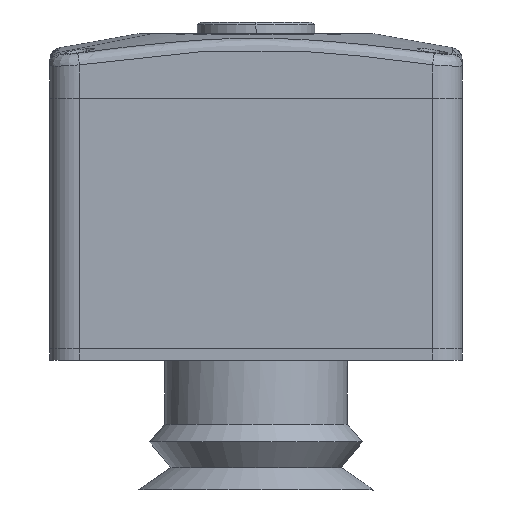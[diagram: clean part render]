
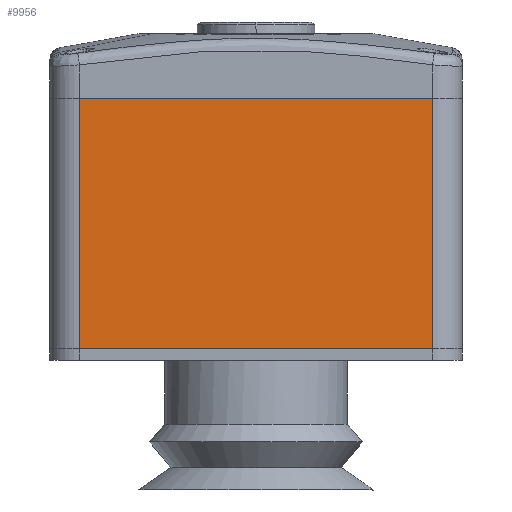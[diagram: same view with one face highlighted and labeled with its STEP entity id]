
A CAD part, left-side view. The second image highlights one B-rep face of the part: STEP entity #9956.
In plain terms, the highlighted planar face has unit normal (-1, 0, 0) as drawn and (0, 1, 0) by its records, which use the part's own axes.
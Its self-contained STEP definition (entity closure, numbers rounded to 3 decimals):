
#32 = ORIENTED_EDGE ( 'NONE', *, *, #6723, .F. ) ;
#1890 = CARTESIAN_POINT ( 'NONE',  ( 30., 26., 12. ) ) ;
#2399 = VERTEX_POINT ( 'NONE', #10295 ) ;
#2549 = ORIENTED_EDGE ( 'NONE', *, *, #4708, .T. ) ;
#2791 = PLANE ( 'NONE',  #3878 ) ;
#3780 = VECTOR ( 'NONE', #16223, 1000. ) ;
#3878 = AXIS2_PLACEMENT_3D ( 'NONE', #6980, #9849, #7046 ) ;
#4317 = CARTESIAN_POINT ( 'NONE',  ( 30., 26., 32.5 ) ) ;
#4708 = EDGE_CURVE ( 'NONE', #2399, #9431, #15980, .T. ) ;
#5305 = CARTESIAN_POINT ( 'NONE',  ( 0., 26., 32.5 ) ) ;
#6723 = EDGE_CURVE ( 'NONE', #15681, #7191, #17049, .T. ) ;
#6980 = CARTESIAN_POINT ( 'NONE',  ( -35., 26., 0. ) ) ;
#7046 = DIRECTION ( 'NONE',  ( 0., 0., -1. ) ) ;
#7191 = VERTEX_POINT ( 'NONE', #9020 ) ;
#8164 = EDGE_CURVE ( 'NONE', #7191, #9431, #8659, .T. ) ;
#8422 = EDGE_LOOP ( 'NONE', ( #2549, #10722, #32, #10816 ) ) ;
#8659 = LINE ( 'NONE', #1890, #3780 ) ;
#8976 = VECTOR ( 'NONE', #18347, 1000. ) ;
#9020 = CARTESIAN_POINT ( 'NONE',  ( 30., 26., -10. ) ) ;
#9022 = EDGE_CURVE ( 'NONE', #15681, #2399, #16981, .T. ) ;
#9431 = VERTEX_POINT ( 'NONE', #4317 ) ;
#9849 = DIRECTION ( 'NONE',  ( 0., -1., 0. ) ) ;
#9956 = ADVANCED_FACE ( 'NONE', ( #17404 ), #2791, .F. ) ;
#10295 = CARTESIAN_POINT ( 'NONE',  ( -30., 26., 32.5 ) ) ;
#10300 = VECTOR ( 'NONE', #13948, 1000. ) ;
#10722 = ORIENTED_EDGE ( 'NONE', *, *, #8164, .F. ) ;
#10816 = ORIENTED_EDGE ( 'NONE', *, *, #9022, .T. ) ;
#11199 = CARTESIAN_POINT ( 'NONE',  ( 0., 26., -10. ) ) ;
#12788 = CARTESIAN_POINT ( 'NONE',  ( -30., 26., -10. ) ) ;
#13204 = DIRECTION ( 'NONE',  ( 0., 0., 1. ) ) ;
#13948 = DIRECTION ( 'NONE',  ( 1., 0., 0. ) ) ;
#14028 = VECTOR ( 'NONE', #13204, 1000. ) ;
#14822 = CARTESIAN_POINT ( 'NONE',  ( -30., 26., 12. ) ) ;
#15681 = VERTEX_POINT ( 'NONE', #12788 ) ;
#15980 = LINE ( 'NONE', #5305, #8976 ) ;
#16223 = DIRECTION ( 'NONE',  ( 0., 0., 1. ) ) ;
#16981 = LINE ( 'NONE', #14822, #14028 ) ;
#17049 = LINE ( 'NONE', #11199, #10300 ) ;
#17404 = FACE_OUTER_BOUND ( 'NONE', #8422, .T. ) ;
#18347 = DIRECTION ( 'NONE',  ( 1., 0., 0. ) ) ;
